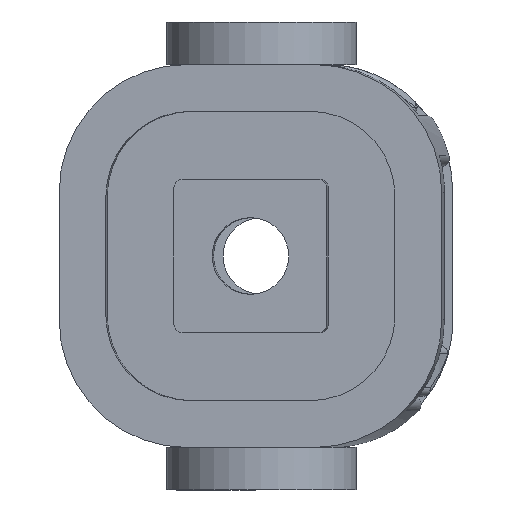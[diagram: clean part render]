
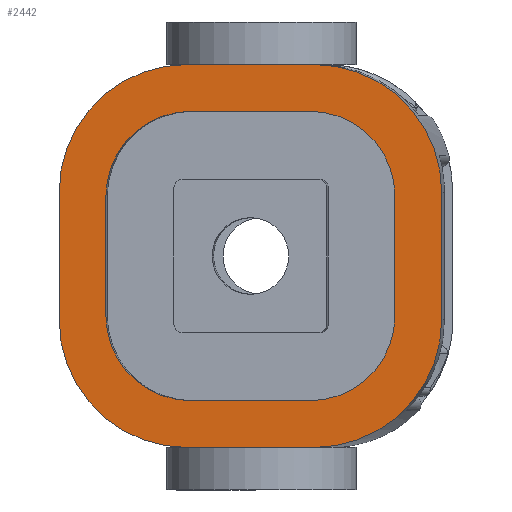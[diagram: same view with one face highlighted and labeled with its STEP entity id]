
A CAD part, front view. The second image highlights one B-rep face of the part: STEP entity #2442.
In plain terms, the highlighted planar face has unit normal (-0.04, -0.999, 0) as drawn and (0, 0, -1) by its records, which use the part's own axes.
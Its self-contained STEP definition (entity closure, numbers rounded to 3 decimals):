
#38 = AXIS2_PLACEMENT_3D ( 'NONE', #40, #3882, #2270 ) ;
#40 = CARTESIAN_POINT ( 'NONE',  ( -7., 7., 0. ) ) ;
#73 = EDGE_CURVE ( 'NONE', #2717, #3128, #2846, .T. ) ;
#90 = ORIENTED_EDGE ( 'NONE', *, *, #2637, .T. ) ;
#95 = ORIENTED_EDGE ( 'NONE', *, *, #1198, .T. ) ;
#143 = CARTESIAN_POINT ( 'NONE',  ( -7.5, -7.5, 0. ) ) ;
#158 = DIRECTION ( 'NONE',  ( 0., -1., 0. ) ) ;
#172 = ORIENTED_EDGE ( 'NONE', *, *, #3227, .T. ) ;
#297 = VECTOR ( 'NONE', #741, 1000. ) ;
#303 = PLANE ( 'NONE',  #2475 ) ;
#329 = AXIS2_PLACEMENT_3D ( 'NONE', #493, #2739, #1152 ) ;
#342 = EDGE_LOOP ( 'NONE', ( #1725, #2143, #464, #2482, #3942, #3492, #921, #2969 ) ) ;
#365 = VERTEX_POINT ( 'NONE', #2832 ) ;
#380 = DIRECTION ( 'NONE',  ( 0., 0., 1. ) ) ;
#434 = DIRECTION ( 'NONE',  ( 1., 0., 0. ) ) ;
#441 = DIRECTION ( 'NONE',  ( 1., 0., 0. ) ) ;
#463 = EDGE_CURVE ( 'NONE', #3128, #365, #3740, .T. ) ;
#464 = ORIENTED_EDGE ( 'NONE', *, *, #1110, .F. ) ;
#480 = DIRECTION ( 'NONE',  ( -1., 0., 0. ) ) ;
#493 = CARTESIAN_POINT ( 'NONE',  ( 7., -7., 0. ) ) ;
#506 = CIRCLE ( 'NONE', #38, 10. ) ;
#507 = DIRECTION ( 'NONE',  ( -1., 0., 0. ) ) ;
#530 = CARTESIAN_POINT ( 'NONE',  ( -22.5, -7.5, 0. ) ) ;
#577 = CARTESIAN_POINT ( 'NONE',  ( -22.5, 7.5, 0. ) ) ;
#622 = DIRECTION ( 'NONE',  ( -1., 0., 0. ) ) ;
#639 = ORIENTED_EDGE ( 'NONE', *, *, #2793, .T. ) ;
#647 = LINE ( 'NONE', #1706, #297 ) ;
#655 = CARTESIAN_POINT ( 'NONE',  ( -7.5, -22.5, 0. ) ) ;
#701 = VERTEX_POINT ( 'NONE', #2124 ) ;
#713 = CARTESIAN_POINT ( 'NONE',  ( 17., -17., 0. ) ) ;
#741 = DIRECTION ( 'NONE',  ( 1., 0., 0. ) ) ;
#757 = VECTOR ( 'NONE', #622, 1000. ) ;
#792 = AXIS2_PLACEMENT_3D ( 'NONE', #2449, #2752, #507 ) ;
#921 = ORIENTED_EDGE ( 'NONE', *, *, #73, .F. ) ;
#968 = CARTESIAN_POINT ( 'NONE',  ( 22.5, 7.5, 0. ) ) ;
#976 = AXIS2_PLACEMENT_3D ( 'NONE', #2363, #2035, #480 ) ;
#1042 = DIRECTION ( 'NONE',  ( 0., 0., 1. ) ) ;
#1075 = VERTEX_POINT ( 'NONE', #1412 ) ;
#1108 = DIRECTION ( 'NONE',  ( 0., 0., 1. ) ) ;
#1110 = EDGE_CURVE ( 'NONE', #2414, #1373, #1276, .T. ) ;
#1113 = LINE ( 'NONE', #3524, #757 ) ;
#1126 = ORIENTED_EDGE ( 'NONE', *, *, #4109, .F. ) ;
#1152 = DIRECTION ( 'NONE',  ( 1., 0., 0. ) ) ;
#1159 = VERTEX_POINT ( 'NONE', #1791 ) ;
#1183 = VECTOR ( 'NONE', #3564, 1000. ) ;
#1198 = EDGE_CURVE ( 'NONE', #701, #3276, #1622, .T. ) ;
#1276 = CIRCLE ( 'NONE', #792, 15. ) ;
#1283 = LINE ( 'NONE', #713, #1183 ) ;
#1343 = CARTESIAN_POINT ( 'NONE',  ( 7.5, -22.5, 0. ) ) ;
#1373 = VERTEX_POINT ( 'NONE', #3851 ) ;
#1406 = CARTESIAN_POINT ( 'NONE',  ( -7., -17., 0. ) ) ;
#1412 = CARTESIAN_POINT ( 'NONE',  ( 7., 17., 0. ) ) ;
#1514 = CARTESIAN_POINT ( 'NONE',  ( -7.5, 22.5, 0. ) ) ;
#1606 = CARTESIAN_POINT ( 'NONE',  ( -7.5, 7.5, 0. ) ) ;
#1622 = CIRCLE ( 'NONE', #329, 10. ) ;
#1652 = FACE_BOUND ( 'NONE', #2072, .T. ) ;
#1669 = CIRCLE ( 'NONE', #3895, 10. ) ;
#1682 = EDGE_CURVE ( 'NONE', #365, #2520, #3387, .T. ) ;
#1683 = DIRECTION ( 'NONE',  ( -1., 0., 0. ) ) ;
#1706 = CARTESIAN_POINT ( 'NONE',  ( 17., 17., 0. ) ) ;
#1716 = VECTOR ( 'NONE', #4047, 1000. ) ;
#1717 = CARTESIAN_POINT ( 'NONE',  ( 7., 7., 0. ) ) ;
#1725 = ORIENTED_EDGE ( 'NONE', *, *, #2302, .F. ) ;
#1729 = VECTOR ( 'NONE', #2582, 1000. ) ;
#1791 = CARTESIAN_POINT ( 'NONE',  ( -17., 7., 0. ) ) ;
#1806 = AXIS2_PLACEMENT_3D ( 'NONE', #143, #380, #1683 ) ;
#1807 = LINE ( 'NONE', #968, #1855 ) ;
#1826 = DIRECTION ( 'NONE',  ( 0., 0., 1. ) ) ;
#1835 = VERTEX_POINT ( 'NONE', #1514 ) ;
#1855 = VECTOR ( 'NONE', #3154, 1000. ) ;
#1863 = CARTESIAN_POINT ( 'NONE',  ( -22.5, 7.5, 0. ) ) ;
#1949 = LINE ( 'NONE', #2093, #2502 ) ;
#2035 = DIRECTION ( 'NONE',  ( 0., 0., 1. ) ) ;
#2060 = VERTEX_POINT ( 'NONE', #577 ) ;
#2072 = EDGE_LOOP ( 'NONE', ( #1126, #90, #3902, #639, #3333, #95, #2618, #172 ) ) ;
#2083 = CARTESIAN_POINT ( 'NONE',  ( 22.5, 7.5, 0. ) ) ;
#2093 = CARTESIAN_POINT ( 'NONE',  ( 17., 17., 0. ) ) ;
#2124 = CARTESIAN_POINT ( 'NONE',  ( 7., -17., 0. ) ) ;
#2143 = ORIENTED_EDGE ( 'NONE', *, *, #3888, .F. ) ;
#2167 = FACE_OUTER_BOUND ( 'NONE', #342, .T. ) ;
#2172 = EDGE_CURVE ( 'NONE', #701, #3438, #1283, .T. ) ;
#2221 = EDGE_CURVE ( 'NONE', #2369, #1159, #4126, .T. ) ;
#2270 = DIRECTION ( 'NONE',  ( 1., 0., 0. ) ) ;
#2280 = CARTESIAN_POINT ( 'NONE',  ( -17., 17., 0. ) ) ;
#2302 = EDGE_CURVE ( 'NONE', #1835, #2060, #4066, .T. ) ;
#2363 = CARTESIAN_POINT ( 'NONE',  ( 7.5, -7.5, 0. ) ) ;
#2369 = VERTEX_POINT ( 'NONE', #3943 ) ;
#2414 = VERTEX_POINT ( 'NONE', #2083 ) ;
#2442 = ADVANCED_FACE ( 'NONE', ( #1652, #2167 ), #303, .F. ) ;
#2449 = CARTESIAN_POINT ( 'NONE',  ( 7.5, 7.5, 0. ) ) ;
#2475 = AXIS2_PLACEMENT_3D ( 'NONE', #1606, #3472, #3508 ) ;
#2482 = ORIENTED_EDGE ( 'NONE', *, *, #3810, .F. ) ;
#2502 = VECTOR ( 'NONE', #158, 1000. ) ;
#2520 = VERTEX_POINT ( 'NONE', #2555 ) ;
#2555 = CARTESIAN_POINT ( 'NONE',  ( 22.5, -7.5, 0. ) ) ;
#2581 = EDGE_CURVE ( 'NONE', #2060, #2717, #3413, .T. ) ;
#2582 = DIRECTION ( 'NONE',  ( 0., 1., 0. ) ) ;
#2618 = ORIENTED_EDGE ( 'NONE', *, *, #3660, .F. ) ;
#2637 = EDGE_CURVE ( 'NONE', #3640, #1159, #506, .T. ) ;
#2695 = CARTESIAN_POINT ( 'NONE',  ( -7.5, 7.5, 0. ) ) ;
#2717 = VERTEX_POINT ( 'NONE', #530 ) ;
#2739 = DIRECTION ( 'NONE',  ( 0., 0., 1. ) ) ;
#2752 = DIRECTION ( 'NONE',  ( 0., 0., 1. ) ) ;
#2793 = EDGE_CURVE ( 'NONE', #2369, #3438, #3013, .T. ) ;
#2832 = CARTESIAN_POINT ( 'NONE',  ( 7.5, -22.5, 0. ) ) ;
#2846 = CIRCLE ( 'NONE', #1806, 15. ) ;
#2969 = ORIENTED_EDGE ( 'NONE', *, *, #2581, .F. ) ;
#3013 = CIRCLE ( 'NONE', #4062, 10. ) ;
#3055 = CARTESIAN_POINT ( 'NONE',  ( 17., -7., 0. ) ) ;
#3074 = AXIS2_PLACEMENT_3D ( 'NONE', #2695, #1108, #434 ) ;
#3128 = VERTEX_POINT ( 'NONE', #655 ) ;
#3154 = DIRECTION ( 'NONE',  ( 0., 1., 0. ) ) ;
#3227 = EDGE_CURVE ( 'NONE', #3376, #1075, #1669, .T. ) ;
#3276 = VERTEX_POINT ( 'NONE', #3055 ) ;
#3333 = ORIENTED_EDGE ( 'NONE', *, *, #2172, .F. ) ;
#3376 = VERTEX_POINT ( 'NONE', #3989 ) ;
#3387 = CIRCLE ( 'NONE', #976, 15. ) ;
#3413 = LINE ( 'NONE', #1863, #1716 ) ;
#3426 = DIRECTION ( 'NONE',  ( 1., 0., 0. ) ) ;
#3438 = VERTEX_POINT ( 'NONE', #1406 ) ;
#3472 = DIRECTION ( 'NONE',  ( 0., 0., 1. ) ) ;
#3492 = ORIENTED_EDGE ( 'NONE', *, *, #463, .F. ) ;
#3508 = DIRECTION ( 'NONE',  ( 1., 0., 0. ) ) ;
#3524 = CARTESIAN_POINT ( 'NONE',  ( 7.5, 22.5, 0. ) ) ;
#3564 = DIRECTION ( 'NONE',  ( -1., 0., 0. ) ) ;
#3585 = DIRECTION ( 'NONE',  ( 1., 0., 0. ) ) ;
#3640 = VERTEX_POINT ( 'NONE', #3702 ) ;
#3660 = EDGE_CURVE ( 'NONE', #3376, #3276, #1949, .T. ) ;
#3702 = CARTESIAN_POINT ( 'NONE',  ( -7., 17., 0. ) ) ;
#3740 = LINE ( 'NONE', #1343, #4049 ) ;
#3810 = EDGE_CURVE ( 'NONE', #2520, #2414, #1807, .T. ) ;
#3851 = CARTESIAN_POINT ( 'NONE',  ( 7.5, 22.5, 0. ) ) ;
#3882 = DIRECTION ( 'NONE',  ( 0., 0., 1. ) ) ;
#3888 = EDGE_CURVE ( 'NONE', #1373, #1835, #1113, .T. ) ;
#3895 = AXIS2_PLACEMENT_3D ( 'NONE', #1717, #1042, #441 ) ;
#3902 = ORIENTED_EDGE ( 'NONE', *, *, #2221, .F. ) ;
#3942 = ORIENTED_EDGE ( 'NONE', *, *, #1682, .F. ) ;
#3943 = CARTESIAN_POINT ( 'NONE',  ( -17., -7., 0. ) ) ;
#3989 = CARTESIAN_POINT ( 'NONE',  ( 17., 7., 0. ) ) ;
#4026 = CARTESIAN_POINT ( 'NONE',  ( -7., -7., 0. ) ) ;
#4047 = DIRECTION ( 'NONE',  ( 0., -1., 0. ) ) ;
#4049 = VECTOR ( 'NONE', #3585, 1000. ) ;
#4062 = AXIS2_PLACEMENT_3D ( 'NONE', #4026, #1826, #3426 ) ;
#4066 = CIRCLE ( 'NONE', #3074, 15. ) ;
#4109 = EDGE_CURVE ( 'NONE', #3640, #1075, #647, .T. ) ;
#4126 = LINE ( 'NONE', #2280, #1729 ) ;
